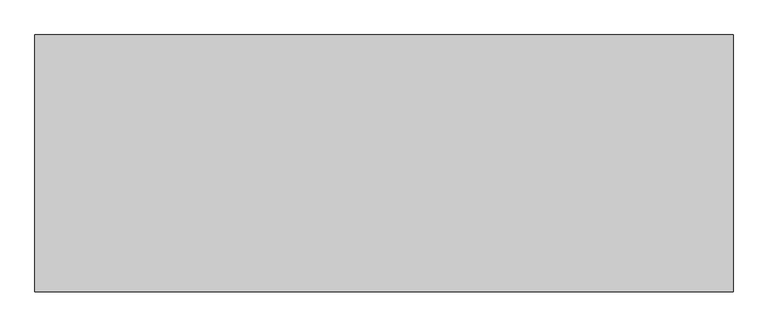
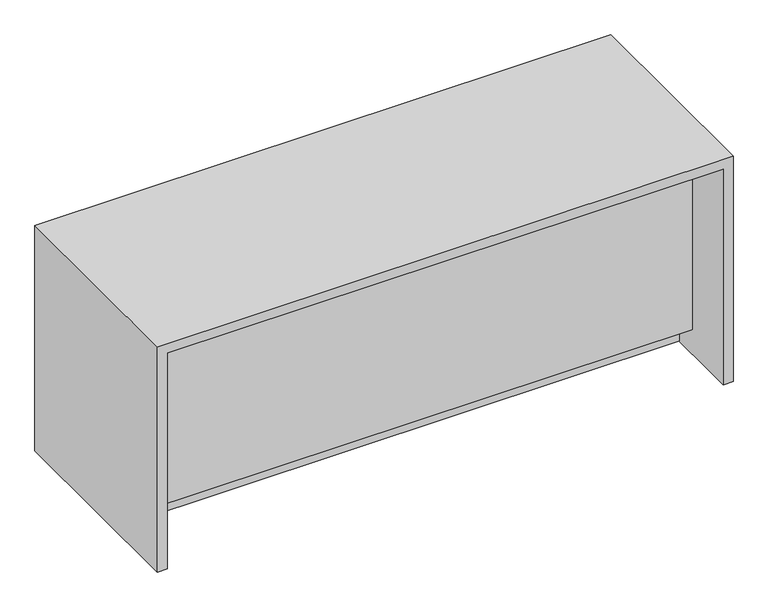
"""IFC4 building model written with IfcOpenShell, lengths in millimetres: furniture geometry, Casework Schematic - Base and Upper : Casework Schematic."""

from ifc_helpers import new_model, si_unit, frame, origin, place, context, project, spatial, polyline, outline, extrude, source, transform, mapped, element, save


def furniture_6f02d49c(model_context):
    return source(origin(), model_context, "Body", "SweptSolid", [
        extrude(outline(polyline([(0.0, 876.3), (0.0, 0.0), (-520.7, 0.0), (-520.7, 101.6), (-609.6, 101.6), (-609.6, 876.3), (0.0, 876.3)])), frame((0.0, 0.0, 0.0), z_axis=(1.0, 0.0, 0.0), x_axis=(0.0, 1.0, 0.0)), (0.0, 0.0, 1.0), 2133.6),
        extrude(outline(polyline([(0.0, 2171.7), (914.4, 2171.7), (914.4, -38.1), (0.0, -38.1), (0.0, 0.0), (876.3, 0.0), (876.3, 2133.6), (0.0, 2133.6), (0.0, 2171.7)])), frame((0.0, -812.8, 0.0), z_axis=(0.0, 1.0, 0.0), x_axis=(0.0, 0.0, 1.0)), (0.0, 0.0, 1.0), 812.8),
    ])


if __name__ == "__main__":
    model = new_model("IFC4")
    model_context = context("Model", 3, world=origin())
    ifc_project = project(units=[si_unit("LENGTHUNIT", "METRE", prefix="MILLI")], contexts=[model_context])
    site = spatial("IfcSite", under=ifc_project)
    building = spatial("IfcBuilding", under=site)
    placement = place(None, origin())
    furniture_shape = furniture_6f02d49c(model_context)
    element("IfcFurniture", 1, ObjectType="Casework Schematic - Base and Upper : Casework Schematic", at=placement, inside=building, context=model_context, shape_type="MappedRepresentation", body=[
        mapped(furniture_shape, transform((0.0, 0.0, 0.0), x_axis=(1.0, 0.0, 0.0), y_axis=(0.0, 1.0, 0.0), z_axis=(0.0, 0.0, 1.0))),
    ])
    save(model, "model.ifc")
